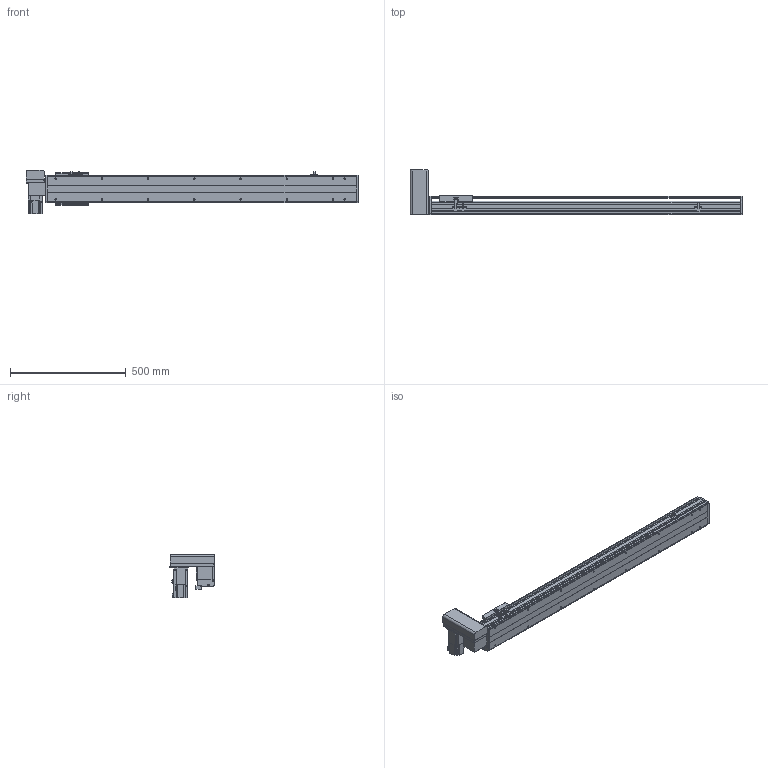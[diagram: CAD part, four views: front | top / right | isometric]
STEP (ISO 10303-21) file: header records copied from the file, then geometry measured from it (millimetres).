
FILE_DESCRIPTION(/* description */ ('STEP AP214'),/* implementation_level */ '2;1');
FILE_NAME(/* name */ 'PBS120-P40-S1050-RU-T40-C1-N(0)',/* time_stamp */ '2022-06-06T02:49:37+02:00',/* author */ ('License CC BY-ND 4.0'),/* organization */ ('CADENAS'),/* preprocessor_version */ 'ST-DEVELOPER v18.102',/* originating_system */ 'PARTsolutions',/* authorisation */ ' ');
FILE_SCHEMA (('AUTOMOTIVE_DESIGN {1 0 10303 214 3 1 1}'));
Length unit declared in the file: millimetre
Products named in the file (7): PBS120-P40-S1050-RU-T40-C1-N(0); PBS120_sensor; PBS120_plant; PBS120_sliser; T40-p1; PBS120T-RU_motors; PBS120-S1050()_body
Assembly tree (8 placements, depth 2):
  PBS120-P40-S1050-RU-T40-C1-N(0)
    PBS120_sensor  x3
    PBS120_plant
    PBS120_sliser
    T40-p1
    PBS120T-RU_motors
    PBS120-S1050()_body
Bounding box: 1436 x 198 x 189.7 mm (x, y, z)
Volume: 6123832.4 mm3; surface area: 1199811.6 mm2
Topology: 8 solids, 8 shells, 828 faces, 2156 edges, 1387 vertices
Faces by surface type: plane 549, cylinder 229, cone 48, torus 2
Full cylindrical faces by diameter (mm): 2.459 x6, 3.242 x4, 4 x2, 4.134 x4, 4.5 x10, 4.917 x20, 5.5 x11, 6 x2, 6.6 x1, 7 x2, 8.5 x4, 9 x4, 12 x1, 14 x1, 30 x2, 40 x1, 50 x2
Entity records: 21594 total; most frequent: DIRECTION 3740, CARTESIAN_POINT 3677, ORIENTED_EDGE 3502, EDGE_CURVE 1751, AXIS2_PLACEMENT_3D 1256, LINE 1228, VECTOR 1228, VERTEX_POINT 1193
